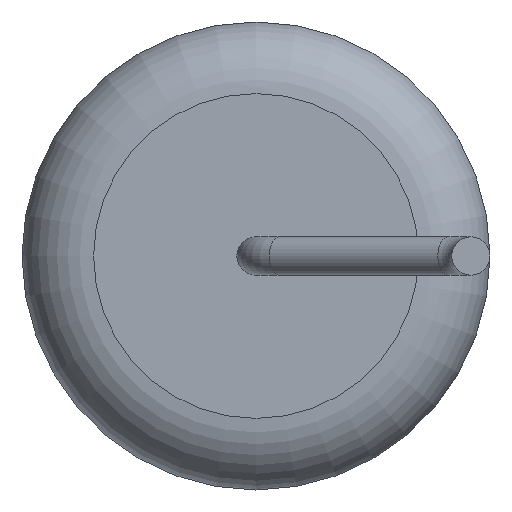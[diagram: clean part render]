
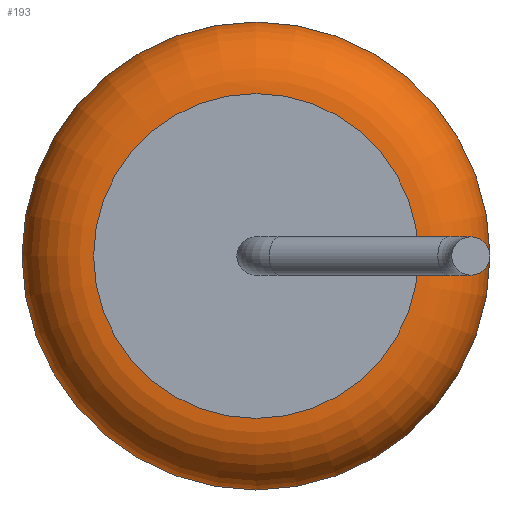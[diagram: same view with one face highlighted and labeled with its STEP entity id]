
A CAD part, left-side view. The second image highlights one B-rep face of the part: STEP entity #193.
In plain terms, the highlighted toroidal (fillet/blend) face has major radius 3.4 mm and minor radius 1.5 mm.
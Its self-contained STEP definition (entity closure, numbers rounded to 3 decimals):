
#193=ADVANCED_FACE('',(#398,#400),#402,.T.);
#398=FACE_OUTER_BOUND('',#399,.T.);
#399=EDGE_LOOP('',(#497));
#400=FACE_OUTER_BOUND('',#401,.T.);
#401=EDGE_LOOP('',(#498));
#402=TOROIDAL_SURFACE('',#403,3.4,1.5);
#403=AXIS2_PLACEMENT_3D('',#404,#405,#406);
#404=CARTESIAN_POINT('',(-12.5,0.,0.));
#405=DIRECTION('',(-1.,0.,0.));
#406=DIRECTION('',(0.,0.,1.));
#497=ORIENTED_EDGE('',*,*,#526,.T.);
#498=ORIENTED_EDGE('',*,*,#527,.F.);
#526=EDGE_CURVE('',#562,#562,#563,.T.);
#527=EDGE_CURVE('',#564,#564,#565,.T.);
#562=VERTEX_POINT('',#648);
#563=CIRCLE('',#649,4.9);
#564=VERTEX_POINT('',#653);
#565=CIRCLE('',#654,3.4);
#648=CARTESIAN_POINT('',(-12.5,0.,4.9));
#649=AXIS2_PLACEMENT_3D('',#650,#651,#652);
#650=CARTESIAN_POINT('',(-12.5,0.,0.));
#651=DIRECTION('',(-1.,0.,0.));
#652=DIRECTION('',(0.,0.,1.));
#653=CARTESIAN_POINT('',(-14.,0.,3.4));
#654=AXIS2_PLACEMENT_3D('',#655,#656,#657);
#655=CARTESIAN_POINT('',(-14.,0.,0.));
#656=DIRECTION('',(-1.,0.,0.));
#657=DIRECTION('',(0.,0.,1.));
